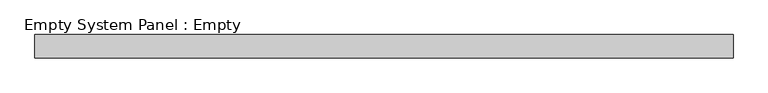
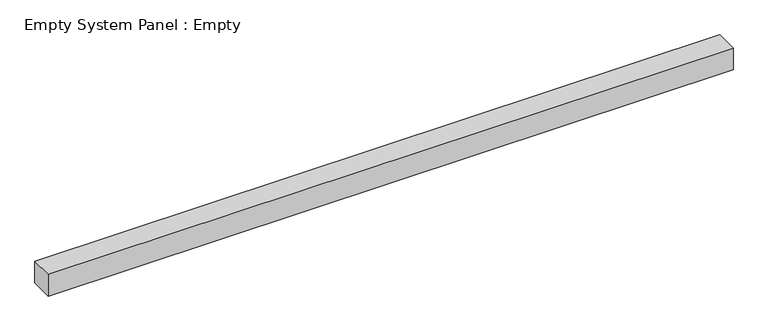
"""IFC4 building model written with IfcOpenShell, lengths in millimetres: plate geometry, Empty System Panel : Empty."""

from ifc_helpers import new_model, si_unit, origin, origin_with_axes, place, context, project, spatial, polyline, outline, extrude, source, transform, mapped, element, save


def empty_system_panel_empty_2cee0f2e(model_context):
    return source(origin(), model_context, "Body", "SweptSolid", [
        extrude(outline(polyline([(1500.0, -50.0), (-1500.0, -50.0), (-1500.0, 50.0), (1500.0, 50.0), (1500.0, -50.0)])), origin_with_axes(), (0.0, 0.0, 1.0), 100.5025253),
    ])


if __name__ == "__main__":
    model = new_model("IFC4")
    model_context = context("Model", 3, world=origin())
    ifc_project = project(units=[si_unit("LENGTHUNIT", "METRE", prefix="MILLI")], contexts=[model_context])
    site = spatial("IfcSite", under=ifc_project)
    building = spatial("IfcBuilding", under=site)
    placement = place(None, origin())
    empty_system_panel_empty_shape = empty_system_panel_empty_2cee0f2e(model_context)
    element("IfcPlate", 1, ObjectType="Empty System Panel : Empty", at=placement, inside=building, context=model_context, shape_type="MappedRepresentation", body=[
        mapped(empty_system_panel_empty_shape, transform((0.0, 0.0, 0.0), x_axis=(1.0, 0.0, 0.0), y_axis=(0.0, 1.0, 0.0), z_axis=(0.0, 0.0, 1.0))),
    ])
    save(model, "model.ifc")
